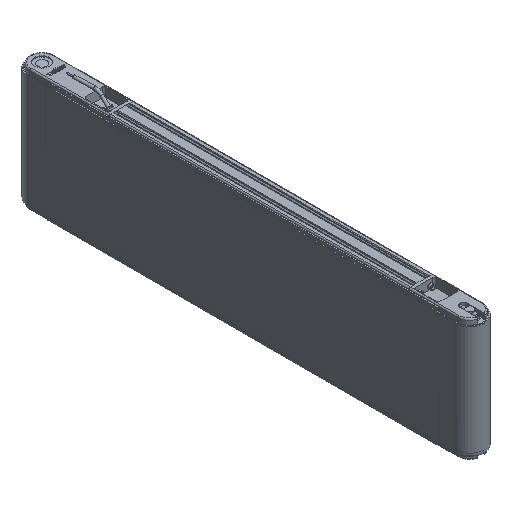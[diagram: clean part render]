
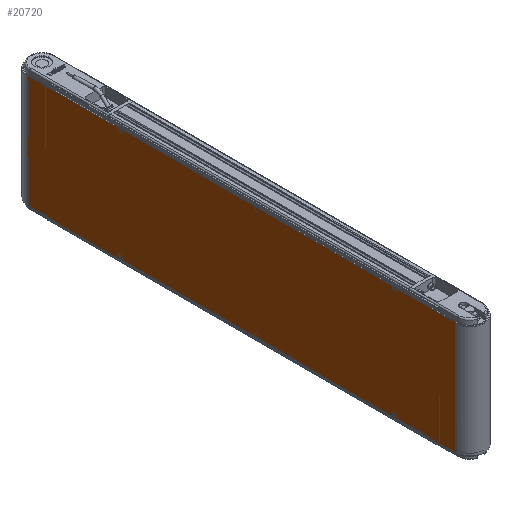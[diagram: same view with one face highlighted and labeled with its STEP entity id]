
A CAD part, isometric view. The second image highlights one B-rep face of the part: STEP entity #20720.
In plain terms, the highlighted planar face has unit normal (-1, 0, 0).
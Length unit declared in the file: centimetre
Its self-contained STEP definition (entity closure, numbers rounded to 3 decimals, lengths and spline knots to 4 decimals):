
#2194=FACE_OUTER_BOUND('',#3336,.T.);
#3336=EDGE_LOOP('',(#13934,#13935,#13936,#13937));
#4746=LINE('',#30543,#6359);
#4747=LINE('',#30548,#6360);
#4749=LINE('',#30552,#6362);
#4750=LINE('',#30553,#6363);
#6359=VECTOR('',#24950,1.);
#6360=VECTOR('',#24955,1.);
#6362=VECTOR('',#24959,1.);
#6363=VECTOR('',#24960,1.);
#8175=VERTEX_POINT('',#30537);
#8177=VERTEX_POINT('',#30541);
#8179=VERTEX_POINT('',#30546);
#8180=VERTEX_POINT('',#30551);
#10404=EDGE_CURVE('',#8175,#8177,#4746,.T.);
#10406=EDGE_CURVE('',#8179,#8177,#4747,.T.);
#10408=EDGE_CURVE('',#8179,#8180,#4749,.T.);
#10409=EDGE_CURVE('',#8180,#8175,#4750,.T.);
#13934=ORIENTED_EDGE('',*,*,#10408,.T.);
#13935=ORIENTED_EDGE('',*,*,#10409,.T.);
#13936=ORIENTED_EDGE('',*,*,#10404,.T.);
#13937=ORIENTED_EDGE('',*,*,#10406,.F.);
#18975=PLANE('',#22137);
#20720=ADVANCED_FACE('',(#2194),#18975,.T.);
#22137=AXIS2_PLACEMENT_3D('',#30550,#24957,#24958);
#24950=DIRECTION('',(0.,1.,0.));
#24955=DIRECTION('',(0.,0.,1.));
#24957=DIRECTION('center_axis',(-1.,0.,0.));
#24958=DIRECTION('ref_axis',(0.,0.,
1.));
#24959=DIRECTION('',(0.,-1.,0.));
#24960=DIRECTION('',(0.,0.,1.));
#30537=CARTESIAN_POINT('',(-2.33,-57.,9.25));
#30541=CARTESIAN_POINT('',(-2.33,13.,9.25));
#30543=CARTESIAN_POINT('',(-2.33,13.,9.25));
#30546=CARTESIAN_POINT('',(-2.33,13.,-9.25));
#30548=CARTESIAN_POINT('',(-2.33,13.,0.));
#30550=CARTESIAN_POINT('Origin',(-2.33,13.,0.));
#30551=CARTESIAN_POINT('',(-2.33,-57.,-9.25));
#30552=CARTESIAN_POINT('',(-2.33,13.,-9.25));
#30553=CARTESIAN_POINT('',(-2.33,-57.,0.));
